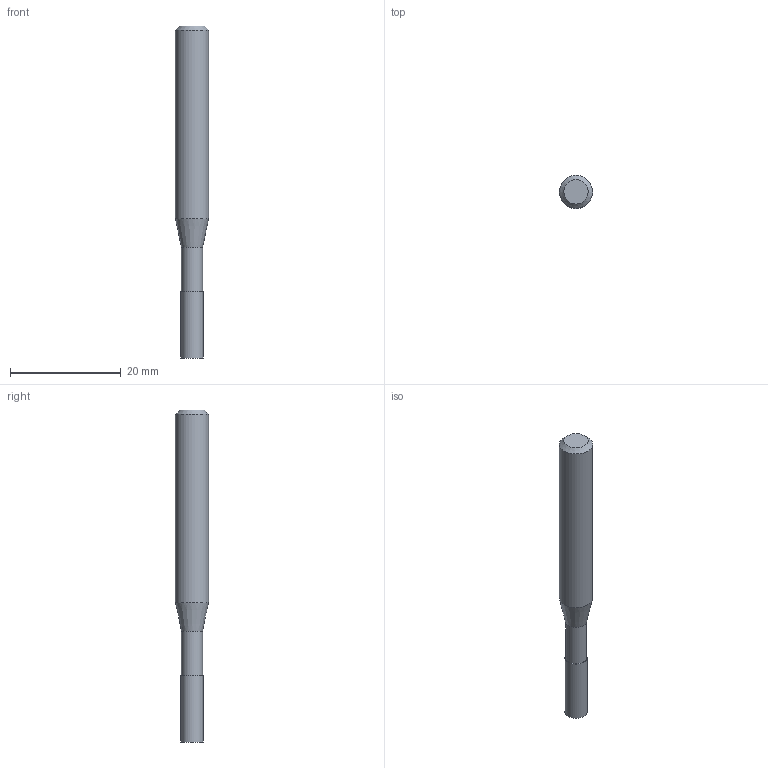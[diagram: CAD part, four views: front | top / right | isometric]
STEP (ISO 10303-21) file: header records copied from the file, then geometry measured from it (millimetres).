
FILE_DESCRIPTION((''),'2;1');
FILE_NAME('C:\Users\nsx150\Desktop\RSE230_20210427\01-00644-04020 RSE230 D4X12X20.step','2021-05-07T14:54:12',(''),(''),'STEP Write','Mastercam 2021 ... CNC Software, Inc.','');
FILE_SCHEMA(('AUTOMOTIVE_DESIGN'));
Length unit declared in the file: millimetre
Products named in the file (1): None
Bounding box: 6 x 6 x 60 mm (x, y, z)
Volume: 1319.9 mm3; surface area: 1039.3 mm2
Topology: 2 solids, 2 shells, 9 faces, 12 edges, 7 vertices
Faces by surface type: plane 4, cylinder 3, cone 2
Full cylindrical faces by diameter (mm): 3.8 x1, 4 x1, 6 x1
Entity records: 211 total; most frequent: DIRECTION 36, CARTESIAN_POINT 25, AXIS2_PLACEMENT_3D 18, ORIENTED_EDGE 14, EDGE_LOOP 14, STYLED_ITEM 12, ADVANCED_FACE 9, FACE_BOUND 8
